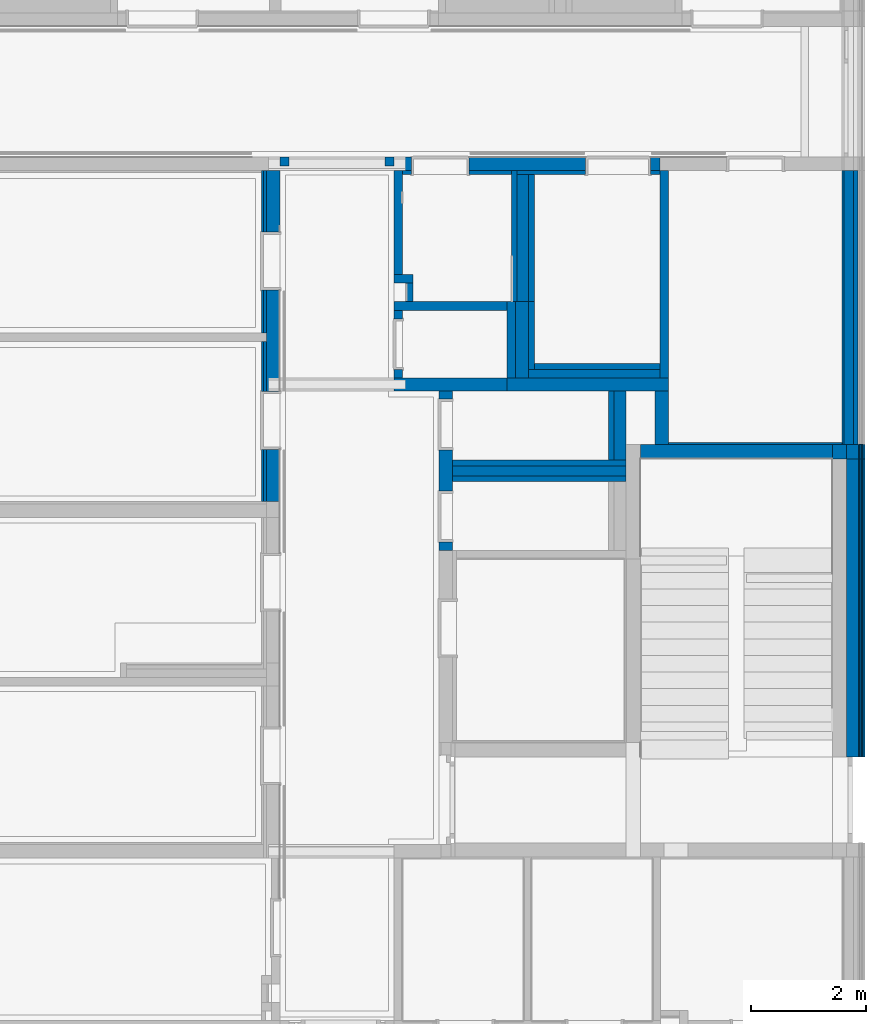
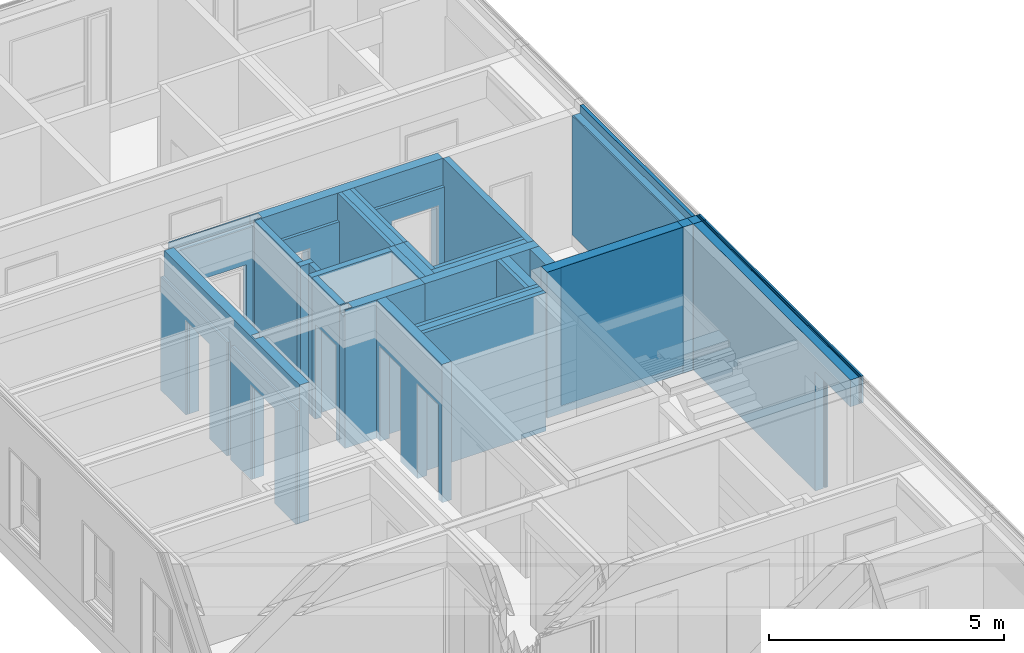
# One storey, part 56 of 207: 45 walls, 19 openings.
"""IFC4 building model written with IfcOpenShell, lengths in metres."""

from ifc_helpers import new_model, entity, si_unit, converted_unit, derived_unit, frame, frame_2d, origin, origin_with_axes, place, context, subcontext, project, spatial, polyline, rectangle, outline, extrude, clip, bounded_halfspace, material, element, save


model = new_model("IFC4")

# Units and contexts
model_context = context("Model", 3, precision=1e-05, world=origin())
body_context = subcontext(model_context, "Body", "Model", "MODEL_VIEW")
ifc_project = project(units=[si_unit("LENGTHUNIT", "METRE"), si_unit("AREAUNIT", "SQUARE_METRE"), si_unit("VOLUMEUNIT", "CUBIC_METRE"), si_unit("MASSUNIT", "GRAM", prefix="KILO"), converted_unit("PLANEANGLEUNIT", "DEGREE", entity("IfcPlaneAngleMeasure", 0.0174532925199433), si_unit("PLANEANGLEUNIT", "RADIAN"), dimensions=[0, 0, 0, 0, 0, 0, 0]), derived_unit("THERMALTRANSMITTANCEUNIT", [(si_unit("POWERUNIT", "WATT"), 1), (si_unit("THERMODYNAMICTEMPERATUREUNIT", "KELVIN"), -1), (si_unit("LENGTHUNIT", "METRE"), -2)]), derived_unit("VOLUMETRICFLOWRATEUNIT", [(si_unit("LENGTHUNIT", "METRE"), 3), (converted_unit("TIMEUNIT", "hour", entity("IfcTimeMeasure", 3600.0), si_unit("TIMEUNIT", "SECOND"), dimensions=[0, 0, 1, 0, 0, 0, 0]), -1), (si_unit("LENGTHUNIT", "METRE"), -1)])], contexts=[model_context])

# Site, building, storey
site_placement = place(None, origin())
site = spatial("IfcSite", under=ifc_project, at=site_placement, Name="Psychiatrie Neubau Wunstorf", CompositionType="ELEMENT")
building_placement = place(site_placement, origin())
building = spatial("IfcBuilding", under=site, at=building_placement, Name="Neubau H2 Stationsgebäude", CompositionType="ELEMENT")
storey_placement = place(building_placement, frame((0.0, 0.0, -0.2)))
storey = spatial("IfcBuildingStorey", under=building, at=storey_placement, Name="H2 Ebene 0", CompositionType="ELEMENT", Elevation=-0.2)

# Walls
ifc_material_1 = material(Name="WA-LB")
wall_1_placement = place(storey_placement, frame((105.889, 22.604, 0.5), z_axis=(0.0, 0.0, 1.0), x_axis=(0.0, -1.0, 0.0)))
element("IfcWall", 1, at=wall_1_placement, inside=storey, material=ifc_material_1, context=body_context, shape_type="SweptSolid", body=[
    extrude(rectangle(XDim=4.77899999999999, YDim=0.036, at=frame_2d((2.38949999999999, 0.018), x_axis=(1.0, 0.0))), origin_with_axes(), (0.0, 0.0, 1.0), 3.1),
])
ifc_material_2 = material(Name="WA-HD")
wall_2_placement = place(storey_placement, frame((105.925, 22.604, 0.5), z_axis=(0.0, 0.0, 1.0), x_axis=(0.0, -1.0, 0.0)))
element("IfcWall", 2, at=wall_2_placement, inside=storey, material=ifc_material_2, context=body_context, shape_type="SweptSolid", body=[
    extrude(rectangle(XDim=4.77899999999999, YDim=0.16, at=frame_2d((2.38949999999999, 0.08), x_axis=(1.0, 0.0))), origin_with_axes(), (0.0, 0.0, 1.0), 3.1),
])
ifc_material_3 = material(Name="WA-DL")
wall_3_placement = place(storey_placement, frame((106.085, 22.604, 0.5), z_axis=(0.0, 0.0, 1.0), x_axis=(0.0, -1.0, 0.0)))
element("IfcWall", 3, at=wall_3_placement, inside=storey, material=ifc_material_3, context=body_context, shape_type="SweptSolid", body=[
    extrude(rectangle(XDim=4.77899999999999, YDim=0.08, at=frame_2d((2.38949999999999, 0.04), x_axis=(1.0, 0.0))), origin_with_axes(), (0.0, 0.0, 1.0), 3.3),
])
ifc_material_4 = material(Name="WA-STB")
wall_4_placement = place(storey_placement, frame((105.72, 17.825, 0.0), z_axis=(0.0, 0.0, 1.0), x_axis=(0.0, -1.0, 0.0)))
element("IfcWall", 4, at=wall_4_placement, inside=storey, material=ifc_material_4, context=body_context, shape_type="SweptSolid", body=[
    extrude(rectangle(XDim=0.25, YDim=0.25, at=frame_2d((0.125, 0.125), x_axis=(1.0, 0.0))), origin_with_axes(), (0.0, 0.0, 1.0), 3.8),
])
ifc_material_5 = material(Name="WA-DL")
wall_5_placement = place(storey_placement, frame((105.97, 17.825, 0.0), z_axis=(0.0, 0.0, 1.0), x_axis=(0.0, -1.0, 0.0)))
element("IfcWall", 5, at=wall_5_placement, inside=storey, material=ifc_material_5, context=body_context, shape_type="SweptSolid", body=[
    extrude(rectangle(XDim=0.25, YDim=0.21, at=frame_2d((0.125, 0.105), x_axis=(1.0, 0.0))), origin_with_axes(), (0.0, 0.0, 1.0), 3.8),
])
ifc_material_6 = material(Name="WA-LB")
wall_6_placement = place(storey_placement, frame((106.18, 17.825, 0.5), z_axis=(0.0, 0.0, 1.0), x_axis=(0.0, -1.0, 0.0)))
element("IfcWall", 6, at=wall_6_placement, inside=storey, material=ifc_material_6, context=body_context, shape_type="SweptSolid", body=[
    extrude(rectangle(XDim=0.25, YDim=0.021, at=frame_2d((0.125, 0.0105), x_axis=(1.0, 0.0))), origin_with_axes(), (0.0, 0.0, 1.0), 3.3),
])
ifc_material_7 = material(Name="WA-KL")
wall_7_placement = place(storey_placement, frame((106.201, 17.825, 0.0), z_axis=(0.0, 0.0, 1.0), x_axis=(0.0, -1.0, 0.0)))
element("IfcWall", 7, at=wall_7_placement, inside=storey, material=ifc_material_7, context=body_context, shape_type="SweptSolid", body=[
    extrude(rectangle(XDim=0.25, YDim=0.024, at=frame_2d((0.125, 0.012), x_axis=(1.0, 0.0))), origin_with_axes(), (0.0, 0.0, 1.0), 3.8),
])
ifc_material_8 = material(Name="WA-TL")
wall_8_placement = place(storey_placement, frame((106.225, 17.825, 0.0), z_axis=(0.0, 0.0, 1.0), x_axis=(0.0, -1.0, 0.0)))
element("IfcWall", 8, at=wall_8_placement, inside=storey, material=ifc_material_8, context=body_context, shape_type="SweptSolid", body=[
    extrude(rectangle(XDim=0.25, YDim=0.024, at=frame_2d((0.125, 0.012), x_axis=(1.0, 0.0))), origin_with_axes(), (0.0, 0.0, 1.0), 3.8),
])
ifc_material_9 = material(Name="WA-HS")
wall_9_placement = place(storey_placement, frame((106.249, 17.825, 0.0), z_axis=(0.0, 0.0, 1.0), x_axis=(0.0, -1.0, 0.0)))
element("IfcWall", 9, at=wall_9_placement, inside=storey, material=ifc_material_9, context=body_context, shape_type="SweptSolid", body=[
    extrude(rectangle(XDim=0.25, YDim=0.042, at=frame_2d((0.125, 0.021), x_axis=(1.0, 0.0))), origin_with_axes(), (0.0, 0.0, 1.0), 3.8),
])

# Wall, opening
ifc_material_10 = material(Name="WA-DL")
wall_10_placement = place(storey_placement, frame((105.97, 17.575, 0.0), z_axis=(0.0, 0.0, 1.0), x_axis=(0.0, -1.0, 0.0)))
wall_10 = element("IfcWall", 10, at=wall_10_placement, inside=storey, material=ifc_material_10, context=body_context, shape_type="SweptSolid", body=[
    extrude(rectangle(XDim=6.70000010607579, YDim=0.21, at=frame_2d((3.3500000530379, 0.105), x_axis=(1.0, 0.0))), origin_with_axes(), (0.0, 0.0, 1.0), 3.8),
])
opening_1_placement = place(wall_10_placement, frame((6.70000010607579, 0.21, 0.0), z_axis=(0.0, -1.0, 0.0), x_axis=(0.0, 0.0, 1.0)))
element("IfcOpeningElement", 11, at=opening_1_placement, cuts=wall_10, Name="Türöffnung", ObjectType="Opening", context=body_context, shape_type="SweptSolid", body=[
    extrude(outline(polyline([(3.1, 1.5000257), (3.1, 0.0), (0.0, 0.0), (0.0, 1.5000257), (3.1, 1.5000257)])), origin_with_axes(), (0.0, 0.0, 1.0), 0.21),
])

ifc_material_11 = material(Name="WA-LB")
wall_11_placement = place(storey_placement, frame((106.18, 17.575, 0.5), z_axis=(0.0, 0.0, 1.0), x_axis=(0.0, -1.0, 0.0)))
wall_11 = element("IfcWall", 12, at=wall_11_placement, inside=storey, material=ifc_material_11, context=body_context, shape_type="SweptSolid", body=[
    extrude(rectangle(XDim=6.70000010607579, YDim=0.021, at=frame_2d((3.3500000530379, 0.0105), x_axis=(1.0, 0.0))), origin_with_axes(), (0.0, 0.0, 1.0), 3.3),
])
opening_2_placement = place(wall_11_placement, frame((6.70000010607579, 0.021, -0.5), z_axis=(0.0, -1.0, 0.0), x_axis=(0.0, 0.0, 1.0)))
element("IfcOpeningElement", 13, at=opening_2_placement, cuts=wall_11, Name="Türöffnung", ObjectType="Opening", context=body_context, shape_type="SweptSolid", body=[
    extrude(outline(polyline([(3.1, 1.5000257), (3.1, 0.0), (0.0, 0.0), (0.0, 1.5000257), (3.1, 1.5000257)])), origin_with_axes(), (0.0, 0.0, 1.0), 0.021),
])

ifc_material_12 = material(Name="WA-KL")
wall_12_placement = place(storey_placement, frame((106.201, 17.575, 0.0), z_axis=(0.0, 0.0, 1.0), x_axis=(0.0, -1.0, 0.0)))
wall_12 = element("IfcWall", 14, at=wall_12_placement, inside=storey, material=ifc_material_12, context=body_context, shape_type="SweptSolid", body=[
    extrude(rectangle(XDim=6.70000010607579, YDim=0.024, at=frame_2d((3.3500000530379, 0.012), x_axis=(1.0, 0.0))), origin_with_axes(), (0.0, 0.0, 1.0), 3.8),
])
opening_3_placement = place(wall_12_placement, frame((6.70000010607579, 0.024, 0.0), z_axis=(0.0, -1.0, 0.0), x_axis=(0.0, 0.0, 1.0)))
element("IfcOpeningElement", 15, at=opening_3_placement, cuts=wall_12, Name="Türöffnung", ObjectType="Opening", context=body_context, shape_type="SweptSolid", body=[
    extrude(outline(polyline([(3.1, 1.5000257), (3.1, 0.0), (0.0, 0.0), (0.0, 1.5000257), (3.1, 1.5000257)])), origin_with_axes(), (0.0, 0.0, 1.0), 0.024),
])

ifc_material_13 = material(Name="WA-TL")
wall_13_placement = place(storey_placement, frame((106.225, 17.575, 0.0), z_axis=(0.0, 0.0, 1.0), x_axis=(0.0, -1.0, 0.0)))
wall_13 = element("IfcWall", 16, at=wall_13_placement, inside=storey, material=ifc_material_13, context=body_context, shape_type="SweptSolid", body=[
    extrude(rectangle(XDim=6.70000010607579, YDim=0.024, at=frame_2d((3.3500000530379, 0.012), x_axis=(1.0, 0.0))), origin_with_axes(), (0.0, 0.0, 1.0), 3.8),
])
opening_4_placement = place(wall_13_placement, frame((6.70000010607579, 0.024, 0.0), z_axis=(0.0, -1.0, 0.0), x_axis=(0.0, 0.0, 1.0)))
element("IfcOpeningElement", 17, at=opening_4_placement, cuts=wall_13, Name="Türöffnung", ObjectType="Opening", context=body_context, shape_type="SweptSolid", body=[
    extrude(outline(polyline([(3.1, 1.5000257), (3.1, 0.0), (0.0, 0.0), (0.0, 1.5000257), (3.1, 1.5000257)])), origin_with_axes(), (0.0, 0.0, 1.0), 0.024),
])

ifc_material_14 = material(Name="WA-HS")
wall_14_placement = place(storey_placement, frame((106.249, 17.575, 0.0), z_axis=(0.0, 0.0, 1.0), x_axis=(0.0, -1.0, 0.0)))
wall_14 = element("IfcWall", 18, at=wall_14_placement, inside=storey, material=ifc_material_14, context=body_context, shape_type="SweptSolid", body=[
    extrude(rectangle(XDim=6.70000010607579, YDim=0.042, at=frame_2d((3.3500000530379, 0.021), x_axis=(1.0, 0.0))), origin_with_axes(), (0.0, 0.0, 1.0), 3.8),
])
opening_5_placement = place(wall_14_placement, frame((6.70000010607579, 0.042, 0.0), z_axis=(0.0, -1.0, 0.0), x_axis=(0.0, 0.0, 1.0)))
element("IfcOpeningElement", 19, at=opening_5_placement, cuts=wall_14, Name="Türöffnung", ObjectType="Opening", context=body_context, shape_type="SweptSolid", body=[
    extrude(outline(polyline([(3.1, 1.5000257), (3.1, 0.0), (0.0, 0.0), (0.0, 1.5000257), (3.1, 1.5000257)])), origin_with_axes(), (0.0, 0.0, 1.0), 0.042),
])

ifc_material_15 = material(Name="WI-LB")
wall_15_placement = place(storey_placement, frame((98.225, 18.9860040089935, 0.0), z_axis=(0.0, 0.0, 1.0), x_axis=(0.0, 1.0, 0.0)))
wall_15 = element("IfcWall", 20, at=wall_15_placement, inside=storey, material=ifc_material_15, context=body_context, shape_type="SweptSolid", body=[
    extrude(rectangle(XDim=1.17898976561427, YDim=0.15, at=frame_2d((0.589494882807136, 0.075), x_axis=(1.0, 0.0))), origin_with_axes(), (0.0, 0.0, 1.0), 3.6),
])
opening_6_placement = place(wall_15_placement, frame((1.02898976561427, 0.15, 0.0), z_axis=(0.0, -1.0, 0.0), x_axis=(0.0, 0.0, 1.0)))
element("IfcOpeningElement", 21, at=opening_6_placement, cuts=wall_15, Name="Türöffnung", ObjectType="Opening", context=body_context, shape_type="SweptSolid", body=[
    extrude(outline(polyline([(2.46, 0.885000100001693), (2.46, 0.0), (0.0, 0.0), (0.0, 0.885000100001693), (2.46, 0.885000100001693)])), origin_with_axes(), (0.0, 0.0, 1.0), 0.15),
])

# Wall
ifc_material_16 = material(Name="WI-LB")
wall_16_placement = place(storey_placement, frame((100.194993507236, 18.9860040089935, 0.0), z_axis=(0.0, 0.0, 1.0), x_axis=(-7.33844728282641e-09, 1.0, 0.0)))
element("IfcWall", 22, at=wall_16_placement, inside=storey, material=ifc_material_16, context=body_context, shape_type="SweptSolid", body=[
    extrude(rectangle(XDim=1.32900184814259, YDim=0.150006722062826, at=frame_2d((0.664500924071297, 0.0750033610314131), x_axis=(1.0, 0.0))), origin_with_axes(), (0.0, 0.0, 1.0), 3.6),
])

# Wall, openings
ifc_material_17 = material(Name="WI-HW 60")
wall_17_placement = place(storey_placement, frame((98.859, 18.7540040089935, 0.0), z_axis=(0.0, 0.0, 1.0), x_axis=(0.0, -1.0, 0.0)))
wall_17 = element("IfcWall", 23, at=wall_17_placement, inside=storey, material=ifc_material_17, context=body_context, shape_type="SweptSolid", body=[
    extrude(rectangle(XDim=2.77900268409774, YDim=0.232, at=frame_2d((1.38950134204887, 0.116), x_axis=(1.0, 0.0))), origin_with_axes(), (0.0, 0.0, 1.0), 3.6),
])
opening_7_placement = place(wall_17_placement, frame((0.139001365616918, 0.0, 0.0), z_axis=(0.0, 1.0, 0.0), x_axis=(0.0, 0.0, 1.0)))
element("IfcOpeningElement", 24, at=opening_7_placement, cuts=wall_17, Name="Türöffnung", ObjectType="Opening", context=body_context, shape_type="SweptSolid", body=[
    extrude(outline(polyline([(2.46, 0.885), (2.46, 0.0), (0.0, 0.0), (0.0, 0.885), (2.46, 0.885)])), origin_with_axes(), (0.0, 0.0, 1.0), 0.232),
])
opening_8_placement = place(wall_17_placement, frame((1.74400268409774, 0.0, 0.0), z_axis=(0.0, 1.0, 0.0), x_axis=(0.0, 0.0, 1.0)))
element("IfcOpeningElement", 25, at=opening_8_placement, cuts=wall_17, Name="Türöffnung", ObjectType="Opening", context=body_context, shape_type="SweptSolid", body=[
    extrude(outline(polyline([(2.46, 0.885), (2.46, 0.0), (0.0, 0.0), (0.0, 0.885), (2.46, 0.885)])), origin_with_axes(), (0.0, 0.0, 1.0), 0.232),
])

# Walls
ifc_material_18 = material(Name="WI-HW 60")
wall_18_placement = place(storey_placement, frame((100.044986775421, 18.9860040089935, 0.0), z_axis=(0.0, 0.0, 1.0), x_axis=(-1.0, 0.0, 0.0)))
element("IfcWall", 26, at=wall_18_placement, inside=storey, material=ifc_material_18, context=body_context, shape_type="Clipping", body=[
    clip(extrude(rectangle(XDim=1.96998677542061, YDim=0.232, at=frame_2d((0.984993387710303, 0.116), x_axis=(1.0, 0.0))), origin_with_axes(), (0.0, 0.0, 1.0), 3.6), bounded_halfspace(frame((1.86998925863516, 0.115999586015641, 3.4), z_axis=(0.0, 0.0, -1.0), x_axis=(0.0, 1.0, 0.0)), True, origin_with_axes(), polyline([(1.96998677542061, 0.0359995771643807), (1.96998677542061, 0.195999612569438), (1.76999172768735, 0.195999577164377), (1.7699917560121, 0.0359995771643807), (1.96998677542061, 0.0359995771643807)]))),
])
ifc_material_19 = material(Name="WI-HW 60")
wall_19_placement = place(storey_placement, frame((102.861, 18.9860037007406, 0.0), z_axis=(0.0, 0.0, 1.0), x_axis=(-0.999999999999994, 1.09464283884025e-07, 0.0)))
element("IfcWall", 27, at=wall_19_placement, inside=storey, material=ifc_material_19, context=body_context, shape_type="SweptSolid", body=[
    extrude(outline(polyline([(-2.8160131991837, -0.231999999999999), (-0.15000670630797, -0.231991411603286), (2.53957138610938e-08, -0.231999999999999), (0.0, 0.0), (-2.81601322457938, -3.08252871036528e-07), (-2.8160131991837, -0.231999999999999)])), frame((2.8160131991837, 0.231999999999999, 0.0), z_axis=(0.0, 0.0, 1.0), x_axis=(1.0, 0.0, 0.0)), (0.0, 0.0, 1.0), 3.6),
])
ifc_material_20 = material(Name="WI-HW 60")
wall_20_placement = place(storey_placement, frame((102.861, 17.825, 0.0), z_axis=(0.0, 0.0, 1.0), x_axis=(0.0, 1.0, 0.0)))
element("IfcWall", 28, at=wall_20_placement, inside=storey, material=ifc_material_20, context=body_context, shape_type="SweptSolid", body=[
    extrude(rectangle(XDim=0.929004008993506, YDim=0.232, at=frame_2d((0.464502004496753, 0.116), x_axis=(1.0, 0.0))), origin_with_axes(), (0.0, 0.0, 1.0), 3.6),
])
ifc_material_21 = material(Name="WI-LB")
wall_21_placement = place(storey_placement, frame((100.044986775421, 20.3150058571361, 0.0), z_axis=(0.0, 0.0, 1.0), x_axis=(-1.0, 0.0, 0.0)))
element("IfcWall", 29, at=wall_21_placement, inside=storey, material=ifc_material_21, context=body_context, shape_type="SweptSolid", body=[
    extrude(outline(polyline([(-1.96998674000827, -0.150006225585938), (-0.324999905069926, -0.150006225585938), (-0.19999990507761, -0.150004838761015), (-0.199999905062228, -0.150006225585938), (0.0, -0.150006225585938), (-1.66425899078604e-06, 0.0), (-1.96998674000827, 0.0), (-1.96998674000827, -0.150006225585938)])), frame((1.96998674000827, 0.150006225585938, 0.0), z_axis=(0.0, 0.0, 1.0), x_axis=(1.0, 0.0, 0.0)), (0.0, 0.0, 1.0), 3.6),
])
ifc_material_22 = material(Name="WI-LB")
wall_22_placement = place(storey_placement, frame((98.0749947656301, 20.7899921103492, 0.0), z_axis=(0.0, 0.0, 1.0), x_axis=(1.10945994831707e-05, -0.999999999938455, 0.0)))
element("IfcWall", 30, at=wall_22_placement, inside=storey, material=ifc_material_22, context=body_context, shape_type="SweptSolid", body=[
    extrude(outline(polyline([(-0.149989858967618, 1.6640774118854e-06), (0.0, 1.6640774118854e-06), (0.0, 0.325001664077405), (-0.149989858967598, 0.325001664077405), (-0.149989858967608, 0.150001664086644), (-0.149988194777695, 0.15000166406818), (-0.149989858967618, 1.6640774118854e-06)])), frame((0.149989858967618, -1.6640774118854e-06, 0.0), z_axis=(0.0, 0.0, 1.0), x_axis=(1.0, 0.0, 0.0)), (0.0, 0.0, 1.0), 3.6),
])
ifc_material_23 = material(Name="WI-LB")
wall_23_placement = place(storey_placement, frame((98.2749963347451, 20.6400044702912, 0.0), z_axis=(0.0, 0.0, 1.0), x_axis=(1.1094599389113e-05, -0.999999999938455, 0.0)))
element("IfcWall", 31, at=wall_23_placement, inside=storey, material=ifc_material_23, context=body_context, shape_type="SweptSolid", body=[
    extrude(rectangle(XDim=0.324999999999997, YDim=0.12500000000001, at=frame_2d((0.162499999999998, 0.0625000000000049), x_axis=(1.0, 0.0))), origin_with_axes(), (0.0, 0.0, 1.0), 3.6),
])

# Wall, openings
ifc_material_24 = material(Name="WI-LB")
wall_24_placement = place(storey_placement, frame((95.7610000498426, 22.604, 0.0), z_axis=(0.0, 0.0, 1.0), x_axis=(0.0, -1.0, 0.0)))
wall_24 = element("IfcWall", 32, at=wall_24_placement, inside=storey, material=ifc_material_24, context=body_context, shape_type="SweptSolid", body=[
    extrude(rectangle(XDim=2.83599999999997, YDim=0.0395, at=frame_2d((1.41799999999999, 0.01975), x_axis=(1.0, 0.0))), origin_with_axes(), (0.0, 0.0, 1.0), 2.95),
    extrude(rectangle(XDim=2.7925, YDim=0.0395, at=frame_2d((-1.39625, -0.01975), x_axis=(-1.0, 0.0))), frame((5.7785, 0.0395, 0.0), z_axis=(0.0, 0.0, 1.0), x_axis=(1.0, 0.0, 0.0)), (0.0, 0.0, 1.0), 2.95),
])
opening_9_placement = place(wall_24_placement, frame((2.08599999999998, 0.0395, 0.0), z_axis=(0.0, -1.0, 0.0), x_axis=(0.0, 0.0, 1.0)))
element("IfcOpeningElement", 33, at=opening_9_placement, cuts=wall_24, Name="Türöffnung", ObjectType="Opening", context=body_context, shape_type="SweptSolid", body=[
    extrude(outline(polyline([(2.46, 1.01), (2.46, 0.0), (0.0, 0.0), (0.0, 1.01), (2.46, 1.01)])), origin_with_axes(), (0.0, 0.0, 1.0), 0.0395),
])
opening_10_placement = place(wall_24_placement, frame((4.86410239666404, 0.0395, 0.0), z_axis=(0.0, -1.0, 0.0), x_axis=(0.0, 0.0, 1.0)))
element("IfcOpeningElement", 34, at=opening_10_placement, cuts=wall_24, Name="Türöffnung", ObjectType="Opening", context=body_context, shape_type="SweptSolid", body=[
    extrude(outline(polyline([(2.46, 1.01), (2.46, 0.0), (0.0, 0.0), (0.0, 1.01), (2.46, 1.01)])), origin_with_axes(), (0.0, 0.0, 1.0), 0.0395),
])

ifc_material_25 = material(Name="Installationsraum")
wall_25_placement = place(storey_placement, frame((95.8005000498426, 22.604, 0.0), z_axis=(0.0, 0.0, 1.0), x_axis=(0.0, -1.0, 0.0)))
wall_25 = element("IfcWall", 35, at=wall_25_placement, inside=storey, material=ifc_material_25, context=body_context, shape_type="SweptSolid", body=[
    extrude(rectangle(XDim=2.83599999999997, YDim=0.05, at=frame_2d((1.41799999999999, 0.025), x_axis=(1.0, 0.0))), origin_with_axes(), (0.0, 0.0, 1.0), 2.95),
    extrude(rectangle(XDim=2.7925, YDim=0.05, at=frame_2d((-1.39625, -0.025), x_axis=(-1.0, 0.0))), frame((5.7785, 0.05, 0.0), z_axis=(0.0, 0.0, 1.0), x_axis=(1.0, 0.0, 0.0)), (0.0, 0.0, 1.0), 2.95),
])
opening_11_placement = place(wall_25_placement, frame((2.08599999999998, 0.05, 0.0), z_axis=(0.0, -1.0, 0.0), x_axis=(0.0, 0.0, 1.0)))
element("IfcOpeningElement", 36, at=opening_11_placement, cuts=wall_25, Name="Türöffnung", ObjectType="Opening", context=body_context, shape_type="SweptSolid", body=[
    extrude(outline(polyline([(2.46, 1.01), (2.46, 0.0), (0.0, 0.0), (0.0, 1.01), (2.46, 1.01)])), origin_with_axes(), (0.0, 0.0, 1.0), 0.05),
])
opening_12_placement = place(wall_25_placement, frame((4.86410239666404, 0.05, 0.0), z_axis=(0.0, -1.0, 0.0), x_axis=(0.0, 0.0, 1.0)))
element("IfcOpeningElement", 37, at=opening_12_placement, cuts=wall_25, Name="Türöffnung", ObjectType="Opening", context=body_context, shape_type="SweptSolid", body=[
    extrude(outline(polyline([(2.46, 1.01), (2.46, 0.0), (0.0, 0.0), (0.0, 1.01), (2.46, 1.01)])), origin_with_axes(), (0.0, 0.0, 1.0), 0.05),
])

ifc_material_26 = material(Name="WI-HW 60")
wall_26_placement = place(storey_placement, frame((95.8505000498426, 22.604, 0.0), z_axis=(0.0, 0.0, 1.0), x_axis=(0.0, -1.0, 0.0)))
wall_26 = element("IfcWall", 38, at=wall_26_placement, inside=storey, material=ifc_material_26, context=body_context, shape_type="Clipping", body=[
    clip(extrude(rectangle(XDim=5.7785, YDim=0.231999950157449, at=frame_2d((2.88925, 0.115999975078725), x_axis=(1.0, 0.0))), origin_with_axes(), (0.0, 0.0, 1.0), 3.6), bounded_halfspace(frame((3.73399598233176, 0.133996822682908, 3.4), z_axis=(0.0, 0.0, -1.0), x_axis=(0.999999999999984, 1.77029687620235e-07, 0.0)), True, origin_with_axes(), polyline([(3.65399599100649, 0.0359936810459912), (3.81399599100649, 0.0359937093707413), (3.81399599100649, 0.231999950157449), (3.65399595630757, 0.231999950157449), (3.65399599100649, 0.0359936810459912)]))),
])
opening_13_placement = place(wall_26_placement, frame((4.86410239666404, 0.231999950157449, 0.0), z_axis=(0.0, -1.0, 0.0), x_axis=(0.0, 0.0, 1.0)))
element("IfcOpeningElement", 39, at=opening_13_placement, cuts=wall_26, Name="Türöffnung", ObjectType="Opening", context=body_context, shape_type="SweptSolid", body=[
    extrude(outline(polyline([(2.46, 1.01), (2.46, 0.0), (0.0, 0.0), (0.0, 1.01), (2.46, 1.01)])), origin_with_axes(), (0.0, 0.0, 1.0), 0.231999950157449),
])
opening_14_placement = place(wall_26_placement, frame((2.08599999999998, 0.231999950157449, 0.0), z_axis=(0.0, -1.0, 0.0), x_axis=(0.0, 0.0, 1.0)))
element("IfcOpeningElement", 40, at=opening_14_placement, cuts=wall_26, Name="Türöffnung", ObjectType="Opening", context=body_context, shape_type="SweptSolid", body=[
    extrude(outline(polyline([(2.46, 1.01), (2.46, 0.0), (0.0, 0.0), (0.0, 1.01), (2.46, 1.01)])), origin_with_axes(), (0.0, 0.0, 1.0), 0.231999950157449),
])

# Walls
ifc_material_27 = material(Name="WI-LB")
wall_27_placement = place(storey_placement, frame((102.861, 17.825, 0.0)))
element("IfcWall", 41, at=wall_27_placement, inside=storey, material=ifc_material_27, context=body_context, shape_type="SweptSolid", body=[
    extrude(rectangle(XDim=3.028, YDim=0.0299996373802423, at=frame_2d((1.514, 0.0149998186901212), x_axis=(1.0, 0.0))), origin_with_axes(), (0.0, 0.0, 1.0), 3.6),
])
ifc_material_28 = material(Name="WI-LB")
wall_28_placement = place(storey_placement, frame((102.861, 18.9860037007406, 0.0), z_axis=(0.0, 0.0, 1.0), x_axis=(0.0, 1.0, 0.0)))
element("IfcWall", 42, at=wall_28_placement, inside=storey, material=ifc_material_28, context=body_context, shape_type="SweptSolid", body=[
    extrude(rectangle(XDim=3.61799633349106, YDim=0.150006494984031, at=frame_2d((1.80899816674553, 0.0750032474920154), x_axis=(1.0, 0.0))), origin_with_axes(), (0.0, 0.0, 1.0), 3.6),
])
ifc_material_29 = material(Name="WI-LB")
wall_29_placement = place(storey_placement, frame((98.2249947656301, 20.7899921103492, 0.0), z_axis=(0.0, 0.0, 1.0), x_axis=(0.0, 1.0, 0.0)))
element("IfcWall", 43, at=wall_29_placement, inside=storey, material=ifc_material_29, context=body_context, shape_type="SweptSolid", body=[
    extrude(rectangle(XDim=1.81400788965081, YDim=0.15, at=frame_2d((0.907003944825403, 0.075), x_axis=(1.0, 0.0))), origin_with_axes(), (0.0, 0.0, 1.0), 3.6),
])

# Wall, openings
ifc_material_30 = material(Name="WI-LB")
wall_30_placement = place(storey_placement, frame((98.075, 22.5290000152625, 0.0)))
wall_30 = element("IfcWall", 44, at=wall_30_placement, inside=storey, material=ifc_material_30, context=body_context, shape_type="SweptSolid", body=[
    extrude(rectangle(XDim=4.63599350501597, YDim=0.0749999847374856, at=frame_2d((2.31799675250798, 0.0374999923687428), x_axis=(1.0, 0.0))), origin_with_axes(), (0.0, 0.0, 1.0), 2.9),
])
opening_15_placement = place(wall_30_placement, frame((0.300006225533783, 0.0, 0.0), z_axis=(0.0, 1.0, 0.0), x_axis=(0.0, 0.0, 1.0)))
element("IfcOpeningElement", 45, at=opening_15_placement, cuts=wall_30, Name="Türöffnung", ObjectType="Opening", context=body_context, shape_type="SweptSolid", body=[
    extrude(outline(polyline([(2.46, 1.01), (2.46, 0.0), (0.0, 0.0), (0.0, 1.01), (2.46, 1.01)])), origin_with_axes(), (0.0, 0.0, 1.0), 0.0749999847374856),
])
opening_16_placement = place(wall_30_placement, frame((3.33999350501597, 0.0, 0.0), z_axis=(0.0, 1.0, 0.0), x_axis=(0.0, 0.0, 1.0)))
element("IfcOpeningElement", 46, at=opening_16_placement, cuts=wall_30, Name="Türöffnung", ObjectType="Opening", context=body_context, shape_type="SweptSolid", body=[
    extrude(outline(polyline([(2.46, 1.135), (2.46, 0.0), (0.0, 0.0), (0.0, 1.135), (2.46, 1.135)])), origin_with_axes(), (0.0, 0.0, 1.0), 0.0749999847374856),
])

ifc_material_31 = material(Name="WI-HW 60")
wall_31_placement = place(storey_placement, frame((98.075, 22.604, 0.0)))
wall_31 = element("IfcWall", 47, at=wall_31_placement, inside=storey, material=ifc_material_31, context=body_context, shape_type="Clipping", body=[
    clip(extrude(rectangle(XDim=4.63599350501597, YDim=0.232, at=frame_2d((2.31799675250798, 0.116), x_axis=(1.0, 0.0))), origin_with_axes(), (0.0, 0.0, 1.0), 3.6), bounded_halfspace(frame((0.0999975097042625, 0.115999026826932, 3.4), z_axis=(0.0, 0.0, -1.0), x_axis=(0.0, -1.0, 0.0)), True, origin_with_axes(), polyline([(0.0, 0.195999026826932), (0.0, 0.0359990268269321), (0.199995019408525, 0.0359990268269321), (0.199995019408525, 0.195999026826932), (0.0, 0.195999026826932)]))),
])
opening_17_placement = place(wall_31_placement, frame((0.300006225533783, 0.0, 0.0), z_axis=(0.0, 1.0, 0.0), x_axis=(0.0, 0.0, 1.0)))
element("IfcOpeningElement", 48, at=opening_17_placement, cuts=wall_31, Name="Türöffnung", ObjectType="Opening", context=body_context, shape_type="SweptSolid", body=[
    extrude(outline(polyline([(2.46, 1.01), (2.46, 0.0), (0.0, 0.0), (0.0, 1.01), (2.46, 1.01)])), origin_with_axes(), (0.0, 0.0, 1.0), 0.232),
])
opening_18_placement = place(wall_31_placement, frame((3.33999350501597, 0.0, 0.0), z_axis=(0.0, 1.0, 0.0), x_axis=(0.0, 0.0, 1.0)))
element("IfcOpeningElement", 49, at=opening_18_placement, cuts=wall_31, Name="Türöffnung", ObjectType="Opening", context=body_context, shape_type="SweptSolid", body=[
    extrude(outline(polyline([(2.46, 1.135), (2.46, 0.0), (0.0, 0.0), (0.0, 1.135), (2.46, 1.135)])), origin_with_axes(), (0.0, 0.0, 1.0), 0.232),
])

# Walls
ifc_material_32 = material(Name="WI-IW")
wall_32_placement = place(storey_placement, frame((100.119992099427, 22.6039999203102, 0.0), z_axis=(0.0, 0.0, 1.0), x_axis=(3.98449228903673e-07, -0.999999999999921, 0.0)))
element("IfcWall", 50, at=wall_32_placement, inside=storey, material=ifc_material_32, context=body_context, shape_type="SweptSolid", body=[
    extrude(rectangle(XDim=2.28899407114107, YDim=0.0999999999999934, at=frame_2d((1.14449703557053, 0.0499999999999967), x_axis=(1.0, 0.0))), origin_with_axes(), (0.0, 0.0, 1.0), 3.6),
])
ifc_material_33 = material(Name="Installationsraum")
wall_33_placement = place(storey_placement, frame((100.219992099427, 22.6039999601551, 0.0), z_axis=(0.0, 0.0, 1.0), x_axis=(3.98449228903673e-07, -0.999999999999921, 0.0)))
element("IfcWall", 51, at=wall_33_placement, inside=storey, material=ifc_material_33, context=body_context, shape_type="Clipping", body=[
    clip(extrude(outline(polyline([(-2.2889940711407, 9.12047922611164e-07), (0.0, 9.12047922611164e-07), (0.0, 0.200000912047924), (-2.28899403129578, 0.200000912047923), (-2.2889940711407, 0.100000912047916), (-2.2889940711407, 9.12047922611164e-07)])), frame((2.2889940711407, -9.12047922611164e-07, 0.0), z_axis=(0.0, 0.0, 1.0), x_axis=(1.0, 0.0, 0.0)), (0.0, 0.0, 1.0), 3.6), bounded_halfspace(frame((0.0375000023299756, 0.0999999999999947, 2.9), z_axis=(0.0, 0.0, 1.0), x_axis=(3.98449228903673e-07, 0.999999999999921, 0.0)), True, origin_with_axes(), polyline([(0.0749999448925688, 0.0), (0.0750000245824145, 0.199999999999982), (3.98449229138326e-08, 0.2), (0.0, 0.0), (0.0749999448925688, 0.0)]))),
])
ifc_material_34 = material(Name="WI-IW")
wall_34_placement = place(storey_placement, frame((100.419992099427, 22.604, 0.0), z_axis=(0.0, 0.0, 1.0), x_axis=(3.98449229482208e-07, -0.999999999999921, 0.0)))
element("IfcWall", 52, at=wall_34_placement, inside=storey, material=ifc_material_34, context=body_context, shape_type="Clipping", body=[
    clip(extrude(rectangle(XDim=2.28899403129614, YDim=0.0999999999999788, at=frame_2d((1.14449701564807, 0.0499999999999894), x_axis=(1.0, 0.0))), origin_with_axes(), (0.0, 0.0, 1.0), 3.6), bounded_halfspace(frame((0.0375000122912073, 0.0499999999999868, 2.9), z_axis=(0.0, 0.0, 1.0), x_axis=(3.98449229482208e-07, 0.999999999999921, 0.0)), True, origin_with_axes(), polyline([(0.0749999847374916, 0.0), (0.0750000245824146, 0.099999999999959), (3.9844922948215e-08, 0.0999999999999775), (0.0, 0.0), (0.0749999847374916, 0.0)]))),
])
ifc_material_35 = material(Name="Installationsraum")
wall_35_placement = place(storey_placement, frame((100.194993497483, 20.3150058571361, 0.0), z_axis=(0.0, 0.0, 1.0), x_axis=(0.0, -1.0, 0.0)))
element("IfcWall", 53, at=wall_35_placement, inside=storey, material=ifc_material_35, context=body_context, shape_type="SweptSolid", body=[
    extrude(rectangle(XDim=1.32900262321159, YDim=0.225, at=frame_2d((0.664501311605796, 0.1125), x_axis=(1.0, 0.0))), origin_with_axes(), (0.0, 0.0, 1.0), 3.6),
])
ifc_material_36 = material(Name="WI-IW")
wall_36_placement = place(storey_placement, frame((100.419993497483, 20.3150058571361, 0.0), z_axis=(0.0, 0.0, 1.0), x_axis=(0.0, -1.0, 0.0)))
element("IfcWall", 54, at=wall_36_placement, inside=storey, material=ifc_material_36, context=body_context, shape_type="SweptSolid", body=[
    extrude(rectangle(XDim=1.17900262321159, YDim=0.1, at=frame_2d((0.589501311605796, 0.05), x_axis=(1.0, 0.0))), origin_with_axes(), (0.0, 0.0, 1.0), 3.6),
])
ifc_material_37 = material(Name="Installationsraum")
wall_37_placement = place(storey_placement, frame((100.419993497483, 18.9860032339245, 0.0)))
element("IfcWall", 55, at=wall_37_placement, inside=storey, material=ifc_material_37, context=body_context, shape_type="SweptSolid", body=[
    extrude(rectangle(XDim=2.29100000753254, YDim=0.15, at=frame_2d((1.14550000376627, 0.075), x_axis=(1.0, 0.0))), origin_with_axes(), (0.0, 0.0, 1.0), 3.6),
])
ifc_material_38 = material(Name="WI-VS")
wall_38_placement = place(storey_placement, frame((100.519993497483, 19.1360032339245, 0.0)))
element("IfcWall", 56, at=wall_38_placement, inside=storey, material=ifc_material_38, context=body_context, shape_type="SweptSolid", body=[
    extrude(rectangle(XDim=2.19100000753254, YDim=0.1, at=frame_2d((1.09550000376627, 0.05), x_axis=(1.0, 0.0))), origin_with_axes(), (0.0, 0.0, 1.0), 3.6),
])

# Wall, opening
ifc_material_39 = material(Name="WI-LB")
wall_39_placement = place(storey_placement, frame((96.0824999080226, 22.681, 0.0)))
wall_39 = element("IfcWall", 57, at=wall_39_placement, inside=storey, material=ifc_material_39, context=body_context, shape_type="Clipping", body=[
    clip(extrude(rectangle(XDim=1.99250000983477, YDim=0.155, at=frame_2d((0.996250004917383, 0.0775), x_axis=(1.0, 0.0))), origin_with_axes(), (0.0, 0.0, 1.0), 3.6), bounded_halfspace(frame((0.996250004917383, 0.059499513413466, 3.4), z_axis=(0.0, 0.0, -1.0), x_axis=(-1.0, 0.0, 0.0)), True, origin_with_axes(), polyline([(1.99250000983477, 0.118999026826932), (0.0, 0.118999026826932), (0.0, 0.0), (1.99250000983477, 0.0), (1.99250000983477, 0.118999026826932)]))),
])
opening_19_placement = place(wall_39_placement, frame((1.83750000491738, 0.155, 0.0), z_axis=(0.0, -1.0, 0.0), x_axis=(0.0, 0.0, 1.0)))
element("IfcOpeningElement", 58, at=opening_19_placement, cuts=wall_39, Name="Türöffnung", ObjectType="Opening", context=body_context, shape_type="SweptSolid", body=[
    extrude(outline(polyline([(2.46, 1.6825), (2.46, 0.0), (0.0, 0.0), (0.0, 1.6825), (2.46, 1.6825)])), origin_with_axes(), (0.0, 0.0, 1.0), 0.155),
])

# Walls
ifc_material_40 = material(Name="Installationsraum")
wall_40_placement = place(storey_placement, frame((102.12, 17.5520026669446, 0.0), z_axis=(0.0, 0.0, 1.0), x_axis=(0.0, 1.0, 0.0)))
element("IfcWall", 59, at=wall_40_placement, inside=storey, material=ifc_material_40, context=body_context, shape_type="SweptSolid", body=[
    extrude(rectangle(XDim=1.20200134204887, YDim=0.21, at=frame_2d((0.601000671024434, 0.105), x_axis=(1.0, 0.0))), origin_with_axes(), (0.0, 0.0, 1.0), 3.6),
])
ifc_material_41 = material(Name="WI-VS")
wall_41_placement = place(storey_placement, frame((101.91, 17.5520026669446, 0.0), z_axis=(0.0, 0.0, 1.0), x_axis=(0.0, 1.0, 0.0)))
element("IfcWall", 60, at=wall_41_placement, inside=storey, material=ifc_material_41, context=body_context, shape_type="SweptSolid", body=[
    extrude(rectangle(XDim=1.20200134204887, YDim=0.1, at=frame_2d((0.601000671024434, 0.05), x_axis=(1.0, 0.0))), origin_with_axes(), (0.0, 0.0, 1.0), 3.6),
])
ifc_material_42 = material(Name="WI-IW")
wall_42_placement = place(storey_placement, frame((99.091, 17.1770026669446, 0.0)))
element("IfcWall", 61, at=wall_42_placement, inside=storey, material=ifc_material_42, context=body_context, shape_type="SweptSolid", body=[
    extrude(rectangle(XDim=3.029, YDim=0.1, at=frame_2d((1.5145, 0.05), x_axis=(1.0, 0.0))), origin_with_axes(), (0.0, 0.0, 1.0), 3.6),
])
ifc_material_43 = material(Name="Installationsraum")
wall_43_placement = place(storey_placement, frame((99.091, 17.2770026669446, 0.0)))
element("IfcWall", 62, at=wall_43_placement, inside=storey, material=ifc_material_43, context=body_context, shape_type="SweptSolid", body=[
    extrude(rectangle(XDim=3.029, YDim=0.175, at=frame_2d((1.5145, 0.0875), x_axis=(1.0, 0.0))), origin_with_axes(), (0.0, 0.0, 1.0), 3.6),
])
ifc_material_44 = material(Name="WI-IW")
wall_44_placement = place(storey_placement, frame((99.091, 17.4520026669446, 0.0)))
element("IfcWall", 63, at=wall_44_placement, inside=storey, material=ifc_material_44, context=body_context, shape_type="SweptSolid", body=[
    extrude(rectangle(XDim=3.029, YDim=0.1, at=frame_2d((1.5145, 0.05), x_axis=(1.0, 0.0))), origin_with_axes(), (0.0, 0.0, 1.0), 3.6),
])
ifc_material_45 = material(Name="WI-STB")
wall_45_placement = place(storey_placement, frame((105.72, 17.825, 0.0), z_axis=(0.0, 0.0, 1.0), x_axis=(-1.0, 0.0, 0.0)))
element("IfcWall", 64, at=wall_45_placement, inside=storey, material=ifc_material_45, context=body_context, shape_type="SweptSolid", body=[
    extrude(rectangle(XDim=3.34999999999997, YDim=0.25, at=frame_2d((1.67499999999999, 0.125), x_axis=(1.0, 0.0))), origin_with_axes(), (0.0, 0.0, 1.0), 3.8),
])

save(model, "model.ifc")
